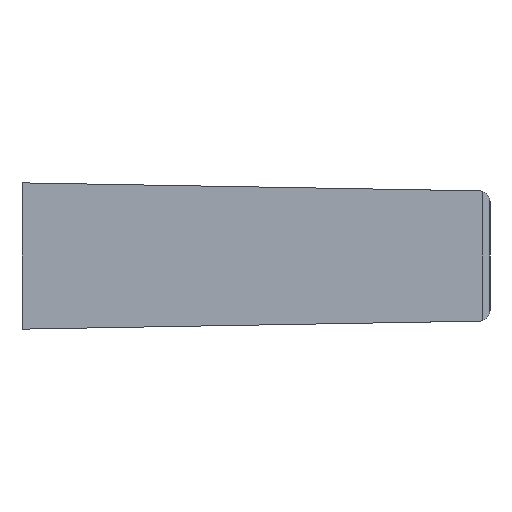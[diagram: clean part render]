
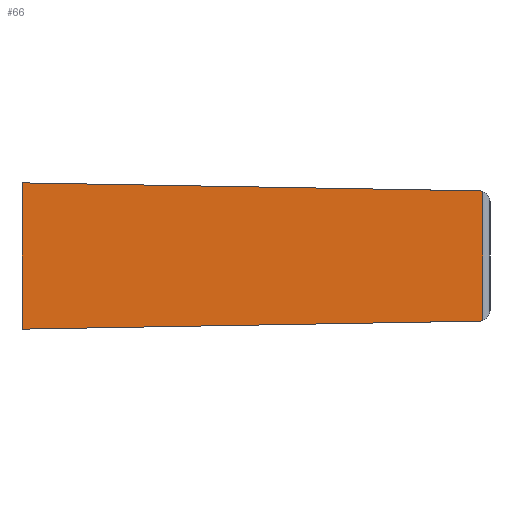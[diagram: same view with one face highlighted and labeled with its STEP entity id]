
A CAD part, left-side view. The second image highlights one B-rep face of the part: STEP entity #66.
In plain terms, the highlighted planar face has unit normal (-0.999, -0.035, 0).
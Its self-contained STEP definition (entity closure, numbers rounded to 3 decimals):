
#66 = ADVANCED_FACE( '', ( #138 ), #139, .F. );
#138 = FACE_OUTER_BOUND( '', #209, .T. );
#139 = PLANE( '', #210 );
#209 = EDGE_LOOP( '', ( #329, #330, #331, #332, #333, #334 ) );
#210 = AXIS2_PLACEMENT_3D( '', #335, #336, #337 );
#329 = ORIENTED_EDGE( '', *, *, #452, .T. );
#330 = ORIENTED_EDGE( '', *, *, #457, .T. );
#331 = ORIENTED_EDGE( '', *, *, #446, .T. );
#332 = ORIENTED_EDGE( '', *, *, #427, .F. );
#333 = ORIENTED_EDGE( '', *, *, #420, .T. );
#334 = ORIENTED_EDGE( '', *, *, #458, .T. );
#335 = CARTESIAN_POINT( '', ( -5., 0., 5. ) );
#336 = DIRECTION( '', ( 0.999, 0.035, 0. ) );
#337 = DIRECTION( '', ( -0.035, 0.999, 0. ) );
#420 = EDGE_CURVE( '', #487, #495, #497, .F. );
#427 = EDGE_CURVE( '', #487, #506, #507, .T. );
#446 = EDGE_CURVE( '', #533, #506, #538, .F. );
#452 = EDGE_CURVE( '', #546, #544, #547, .T. );
#457 = EDGE_CURVE( '', #544, #533, #553, .T. );
#458 = EDGE_CURVE( '', #495, #546, #554, .T. );
#487 = VERTEX_POINT( '', #589 );
#495 = VERTEX_POINT( '', #612 );
#497 = ELLIPSE( '', #615, 0.75, 0.75 );
#506 = VERTEX_POINT( '', #627 );
#507 = LINE( '', #628, #629 );
#533 = VERTEX_POINT( '', #671 );
#538 = ELLIPSE( '', #685, 0.75, 0.75 );
#544 = VERTEX_POINT( '', #692 );
#546 = VERTEX_POINT( '', #695 );
#547 = LINE( '', #696, #697 );
#553 = LINE( '', #704, #705 );
#554 = LINE( '', #706, #707 );
#589 = CARTESIAN_POINT( '', ( -3.899, -31.517, 4.405 ) );
#612 = CARTESIAN_POINT( '', ( -3.908, -31.263, 4.454 ) );
#615 = AXIS2_PLACEMENT_3D( '', #740, #741, #742 );
#627 = CARTESIAN_POINT( '', ( -3.899, -31.517, -4.405 ) );
#628 = CARTESIAN_POINT( '', ( -3.899, -31.517, 5. ) );
#629 = VECTOR( '', #749, 1000. );
#671 = CARTESIAN_POINT( '', ( -3.908, -31.263, -4.454 ) );
#685 = AXIS2_PLACEMENT_3D( '', #764, #765, #766 );
#692 = CARTESIAN_POINT( '', ( -5., 0., -5. ) );
#695 = CARTESIAN_POINT( '', ( -5., 0., 5. ) );
#696 = CARTESIAN_POINT( '', ( -5., 0., 5. ) );
#697 = VECTOR( '', #772, 1000. );
#704 = CARTESIAN_POINT( '', ( -4.994, -0.174, -4.997 ) );
#705 = VECTOR( '', #777, 1000. );
#706 = CARTESIAN_POINT( '', ( -5., 0., 5. ) );
#707 = VECTOR( '', #778, 1000. );
#740 = CARTESIAN_POINT( '', ( -3.909, -31.25, 3.704 ) );
#741 = DIRECTION( '', ( 0.999, 0.035, 0. ) );
#742 = DIRECTION( '', ( -0.035, 0.999, 0. ) );
#749 = DIRECTION( '', ( 0., 0., -1. ) );
#764 = CARTESIAN_POINT( '', ( -3.909, -31.25, -3.704 ) );
#765 = DIRECTION( '', ( 0.999, 0.035, 0. ) );
#766 = DIRECTION( '', ( -0.035, 0.999, 0. ) );
#772 = DIRECTION( '', ( 0., 0., -1. ) );
#777 = DIRECTION( '', ( 0.035, -0.999, 0.017 ) );
#778 = DIRECTION( '', ( -0.035, 0.999, 0.017 ) );
